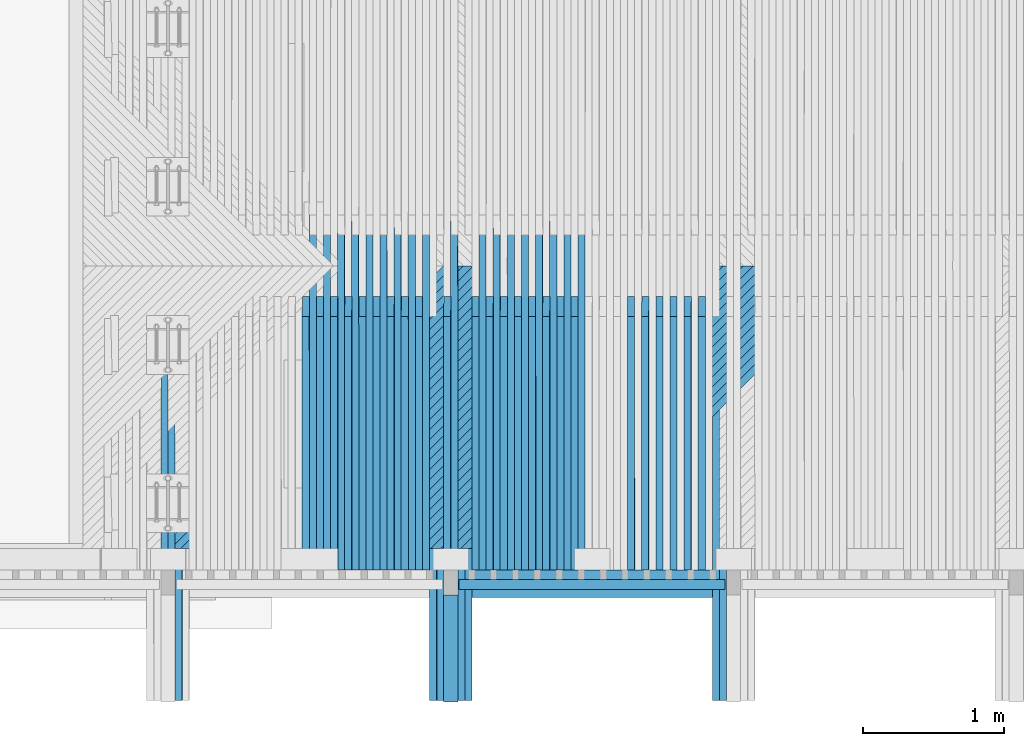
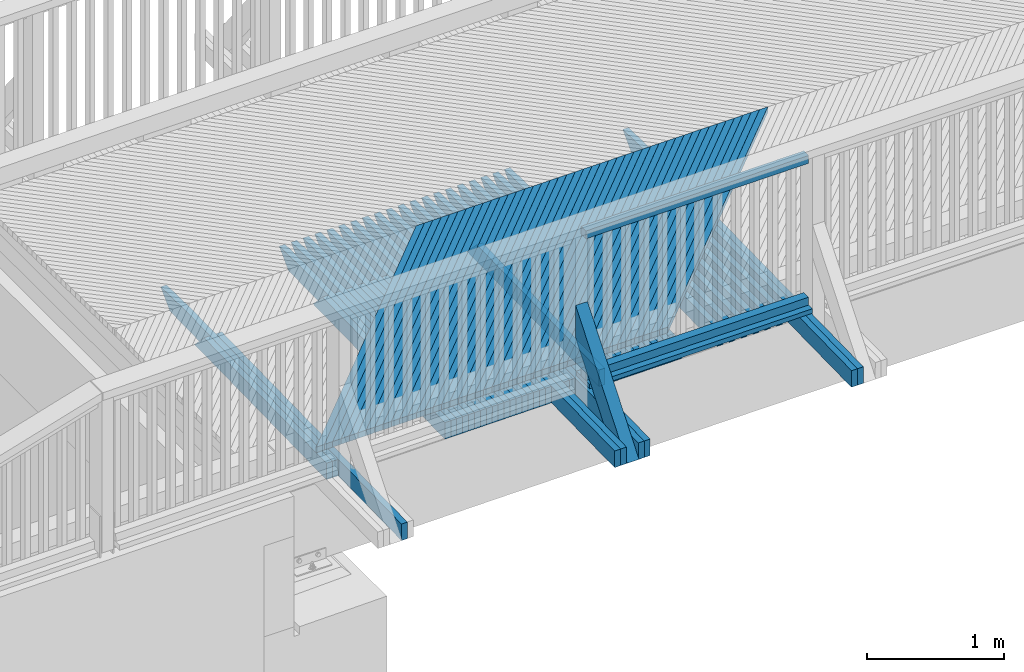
# One storey, part 18 of 53: 96 beams, 1 member.
"""IFC2X3 building model written with IfcOpenShell, lengths in millimetres."""

from ifc_helpers import new_model, si_unit, frame, origin_with_axes, place, context, subcontext, project, spatial, faceted_brep, material, type_object, element, save


model = new_model("IFC2X3")

# Units and contexts
model_context = context("Model", 3, precision=1e-05, world=origin_with_axes())
body_context = subcontext(model_context, "Body", "Model", "MODEL_VIEW")
ifc_project = project(units=[si_unit("LENGTHUNIT", "METRE", prefix="MILLI"), si_unit("AREAUNIT", "SQUARE_METRE"), si_unit("VOLUMEUNIT", "CUBIC_METRE"), si_unit("MASSUNIT", "GRAM", prefix="KILO"), si_unit("TIMEUNIT", "SECOND"), si_unit("PLANEANGLEUNIT", "RADIAN"), si_unit("SOLIDANGLEUNIT", "STERADIAN"), si_unit("THERMODYNAMICTEMPERATUREUNIT", "DEGREE_CELSIUS"), si_unit("LUMINOUSINTENSITYUNIT", "LUMEN")], contexts=[model_context])

# Site, building, storey
site_placement = place(None, origin_with_axes())
site = spatial("IfcSite", under=ifc_project, at=site_placement, Name="Undefined", CompositionType="ELEMENT")
building_placement = place(site_placement, origin_with_axes())
building = spatial("IfcBuilding", under=site, at=building_placement, Name="Undefined", CompositionType="ELEMENT")
storey_placement = place(building_placement, origin_with_axes())
storey = spatial("IfcBuildingStorey", under=building, at=storey_placement, Name="Undefined", CompositionType="ELEMENT", Elevation=0.0)

# Member
ifc_material = material(Name="TIMBER/Timber_Undefined")
member_type = type_object("IfcMemberType", Name="180*100", PredefinedType="NOTDEFINED")
member_placement = place(storey_placement, frame((2000.00641464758, 39351.2316008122, 2924.1196412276), z_axis=(0.0, -0.783926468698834, 0.620853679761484), x_axis=(-4.01699999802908e-06, 0.620853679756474, 0.783926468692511)))
element("IfcMember", 1, at=member_placement, inside=storey, type_object=member_type, material=ifc_material, Name="KAIDEPYLVÄS", ObjectType="180*100", context=body_context, shape_type="Brep", body=[
    faceted_brep([(0.0, 50.0, -89.9999999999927), (0.0, 50.0, 90.0), (1214.99480886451, 50.0000000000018, 90.0000000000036), (987.716194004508, 50.0, -89.9999999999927), (0.0, -49.9999999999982, 90.0000000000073), (1214.99440716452, -49.9999999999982, 90.0000000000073), (-3.63797880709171e-12, -49.9999999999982, -90.0), (987.715792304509, -49.9999999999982, -89.9999999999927)], [[[0, 1, 2, 3]], [[1, 4, 5, 2]], [[4, 6, 7, 5]], [[6, 0, 3, 7]], [[5, 7, 3, 2]], [[6, 4, 1, 0]]]),
])

# Beams
beam_type_1 = type_object("IfcBeamType", Name="70*70", PredefinedType="NOTDEFINED")
for number, where, z_axis, x_axis, name in (
    (2, (2060.3049307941, 40110.0099997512, 3233.55031617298), (0.0, -1.0, 0.0), (0.999961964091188, 0.0, 0.00872183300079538), "BEAM"),
    (3, (2060.3049307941, 40110.0099997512, 4498.55031617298), (0.0, -1.0, 0.0), (0.999961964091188, 0.0, 0.00872183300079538), "BEAM"),
):
    element("IfcBeam", number, at=place(storey_placement, frame(where, z_axis=z_axis, x_axis=x_axis)), inside=storey, type_object=beam_type_1, material=ifc_material, Name=name, ObjectType="70*70", context=body_context, shape_type="Brep", body=[
        faceted_brep([(-3.63797880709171e-12, 35.0000000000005, -35.0), (-3.63797880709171e-12, 35.0000000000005, 35.0), (1880.07227097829, 34.9999999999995, 35.0), (1880.07227097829, 34.9999999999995, -35.0), (-3.63797880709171e-12, -34.9999999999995, 35.0), (1880.07227097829, -35.0000000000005, 35.0), (-3.63797880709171e-12, -34.9999999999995, -35.0), (1880.07227097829, -35.0000000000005, -35.0)], [[[0, 1, 2, 3]], [[1, 4, 5, 2]], [[4, 6, 7, 5]], [[6, 0, 3, 7]], [[5, 7, 3, 2]], [[6, 4, 1, 0]]]),
    ])
beam_type_2 = type_object("IfcBeamType", Name="195*40", PredefinedType="NOTDEFINED")
beam_1_placement = place(storey_placement, frame((2059.92831112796, 40117.5099997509, 3178.55418737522), z_axis=(0.0, -1.0, 0.0), x_axis=(0.999961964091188, 0.0, 0.00872183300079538)))
element("IfcBeam", 4, at=beam_1_placement, inside=storey, type_object=beam_type_2, material=ifc_material, Name="BEAM", ObjectType="195*40", context=body_context, shape_type="Brep", body=[
    faceted_brep([(0.0, 20.0, -97.5), (0.0, 20.0, 97.5), (1880.22135781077, 19.9999999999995, 97.5), (1880.22135781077, 19.9999999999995, -97.5), (3.63797880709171e-12, -20.0, 97.5), (1880.22135781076, -20.0000000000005, 97.5), (3.63797880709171e-12, -20.0, -97.5), (1880.22135781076, -20.0000000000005, -97.5)], [[[0, 1, 2, 3]], [[1, 4, 5, 2]], [[4, 6, 7, 5]], [[6, 0, 3, 7]], [[5, 7, 3, 2]], [[6, 4, 1, 0]]]),
])
beam_type_3 = type_object("IfcBeamType", Name="50*50", PredefinedType="NOTDEFINED")
for number, where, z_axis, x_axis, name in (
    (5, (1982.89840031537, 42364.5001003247, 3206.05577851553), (0.707207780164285, -0.706981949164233, -0.0058033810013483), (-0.706907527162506, -0.706948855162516, -0.0224736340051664), "BEAM"),
    (6, (2053.61914354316, 42364.5001003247, 3206.75839778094), (0.707207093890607, -0.706981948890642, -0.00588644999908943), (-0.706910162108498, -0.706948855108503, -0.0223906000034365), "BEAM"),
    (7, (2124.3399688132, 42364.5001003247, 3207.45271013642), (0.707206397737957, -0.706981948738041, -0.00596951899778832), (-0.706912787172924, -0.706948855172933, -0.0223075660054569), "BEAM"),
    (8, (2195.06087514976, 42364.5001003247, 3208.13871557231), (0.70720569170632, -0.706981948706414, -0.00605258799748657), (-0.706915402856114, -0.706948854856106, -0.0222245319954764), "BEAM"),
    (9, (2265.78186157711, 42364.5001003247, 3208.8164140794), (0.707204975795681, -0.706981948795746, -0.00613565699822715), (-0.706918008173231, -0.706948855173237, -0.0221414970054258), "BEAM"),
    (10, (2336.5029271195, 42364.5001003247, 3209.48580564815), (0.707204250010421, -0.706981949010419, -0.00621872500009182), (-0.706920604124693, -0.706948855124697, -0.0220584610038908), "BEAM"),
    (11, (2407.22407080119, 42364.5001003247, 3210.14689026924), (0.707203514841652, -0.706981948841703, -0.00630179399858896), (-0.706923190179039, -0.706948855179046, -0.0219754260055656), "BEAM"),
    (12, (2477.94529164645, 42364.5001003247, 3210.79966793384), (0.707202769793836, -0.706981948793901, -0.0063848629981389), (-0.706925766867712, -0.706948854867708, -0.0218923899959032), "BEAM"),
    (13, (4882.50574585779, 42364.5001003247, 3228.05141176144), (0.707171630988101, -0.706981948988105, -0.00920913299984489), (-0.707007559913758, -0.706948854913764, -0.0190689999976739), "BEAM"),
    (14, (4811.78248202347, 42364.5001003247, 3227.68107523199), (0.707172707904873, -0.7069819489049, -0.00912606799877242), (-0.707005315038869, -0.706948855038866, -0.0191520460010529), "BEAM"),
    (15, (4741.05926217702, 42364.5001003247, 3227.30243150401), (0.707173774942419, -0.706981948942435, -0.00904300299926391), (-0.707003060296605, -0.706948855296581, -0.0192350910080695), "BEAM"),
    (16, (4670.33608729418, 42364.5001003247, 3226.91548058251), (0.707174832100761, -0.706981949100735, -0.00895993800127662), (-0.707000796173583, -0.70694885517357, -0.019318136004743), "BEAM"),
    (17, (4599.61295835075, 42364.5001003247, 3226.52022247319), (0.707175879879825, -0.706981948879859, -0.00887687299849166), (-0.706998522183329, -0.706948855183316, -0.0194011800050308), "BEAM"),
    (18, (4528.88987632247, 42364.5001003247, 3226.11665718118), (0.707176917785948, -0.706981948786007, -0.00879380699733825), (-0.706996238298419, -0.706948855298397, -0.0194842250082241), "BEAM"),
    (19, (4458.16684218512, 42364.5001003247, 3225.70478471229), (0.707177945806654, -0.706981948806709, -0.00871074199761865), (-0.706993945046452, -0.706948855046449, -0.0195672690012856), "BEAM"),
    (20, (4387.44385691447, 42364.5001003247, 3225.284605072), (0.707178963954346, -0.70698194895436, -0.00862767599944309), (-0.706991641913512, -0.706948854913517, -0.0196503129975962), "BEAM"),
    (21, (4316.72092148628, 42364.5001003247, 3224.85611826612), (0.707179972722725, -0.706981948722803, -0.00854460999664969), (-0.706989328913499, -0.706948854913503, -0.0197333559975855), "BEAM"),
    (22, (4245.99803687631, 42364.5001003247, 3224.41932430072), (0.707180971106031, -0.706981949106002, -0.0084615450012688), (-0.706987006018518, -0.706948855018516, -0.019816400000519), "BEAM"),
    (23, (4175.27520406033, 42364.5001003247, 3223.97422318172), (0.707181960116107, -0.706981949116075, -0.00837847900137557), (-0.706984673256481, -0.706948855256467, -0.0198994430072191), "BEAM"),
    (24, (4104.5524240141, 42364.5001003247, 3223.52081491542), (0.707182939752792, -0.706981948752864, -0.00829541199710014), (-0.706982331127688, -0.706948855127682, -0.019982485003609), "BEAM"),
    (25, (4033.82969771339, 42364.5001003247, 3223.05909950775), (0.707183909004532, -0.706981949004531, -0.00821234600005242), (-0.706979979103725, -0.70694885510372, -0.0200655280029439), "BEAM"),
    (26, (3963.10702613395, 42364.5001003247, 3222.58907696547), (0.707184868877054, -0.70698194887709, -0.00812927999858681), (-0.706977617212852, -0.706948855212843, -0.0201485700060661), "BEAM"),
    (27, (3892.38441025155, 42364.5001003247, 3222.11074729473), (0.707185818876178, -0.706981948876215, -0.00804621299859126), (-0.706975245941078, -0.706948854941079, -0.0202316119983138), "BEAM"),
    (28, (3821.66185104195, 42364.5001003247, 3221.62411050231), (0.707186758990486, -0.706981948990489, -0.0079631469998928), (-0.706972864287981, -0.70694885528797, -0.0203146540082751), "BEAM"),
    (29, (3750.93934948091, 42364.5001003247, 3221.12916659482), (0.707187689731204, -0.706981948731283, -0.00788007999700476), (-0.706970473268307, -0.706948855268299, -0.0203976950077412), "BEAM"),
    (30, (3680.21690654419, 42364.5001003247, 3220.62591557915), (0.707188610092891, -0.706981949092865, -0.00779701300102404), (-0.70696807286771, -0.706948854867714, -0.0204807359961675), "BEAM"),
    (31, (3609.49452320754, 42364.5001003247, 3220.11435746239), (0.707189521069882, -0.706981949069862, -0.00771394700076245), (-0.70696566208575, -0.706948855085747, -0.0205637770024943), "BEAM"),
    (32, (3538.77220044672, 42364.5001003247, 3219.59449225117), (0.707190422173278, -0.706981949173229, -0.00763088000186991), (-0.706963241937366, -0.706948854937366, -0.0206468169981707), "BEAM"),
    (33, (3468.04993923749, 42364.5001003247, 3219.06631995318), (0.707191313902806, -0.706981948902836, -0.00754781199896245), (-0.706960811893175, -0.706948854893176, -0.0207298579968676), "BEAM"),
    (34, (3397.3277405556, 42364.5001003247, 3218.52984057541), (0.707192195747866, -0.706981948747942, -0.00746474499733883), (-0.70695837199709, -0.706948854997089, -0.0208128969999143), "BEAM"),
    (35, (3326.60560537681, 42364.5001003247, 3217.98505412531), (0.707193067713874, -0.70698194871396, -0.00738167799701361), (-0.706955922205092, -0.70694885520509, -0.020895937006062), "BEAM"),
    (36, (3255.88353467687, 42364.5001003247, 3217.43196061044), (0.707193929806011, -0.70698194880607, -0.00729860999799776), (-0.706953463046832, -0.706948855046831, -0.0209789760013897), "BEAM"),
    (37, (3185.16152943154, 42364.5001003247, 3216.87056003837), (0.707194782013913, -0.70698194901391, -0.00721554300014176), (-0.706950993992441, -0.706948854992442, -0.0210620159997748), "BEAM"),
    (38, (3114.43959061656, 42364.5001003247, 3216.30085241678), (0.707195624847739, -0.706981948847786, -0.00713247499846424), (-0.706948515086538, -0.706948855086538, -0.0211450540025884), "BEAM"),
    (39, (3043.7177192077, 42364.5001003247, 3215.72283775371), (0.707196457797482, -0.706981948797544, -0.00704940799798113), (-0.706946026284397, -0.706948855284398, -0.0212280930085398), "BEAM"),
    (40, (2972.99591618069, 42364.5001003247, 3215.13651605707), (0.707197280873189, -0.706981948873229, -0.00696633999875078), (-0.706943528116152, -0.706948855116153, -0.0213111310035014), "BEAM"),
    (41, (2902.27418251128, 42364.5001003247, 3214.5418873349), (0.707198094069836, -0.706981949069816, -0.00688327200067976), (-0.706941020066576, -0.706948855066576, -0.0213941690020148), "BEAM"),
    (42, (2831.55251917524, 42364.5001003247, 3213.93895159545), (0.70719889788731, -0.706981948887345, -0.00680020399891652), (-0.706938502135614, -0.706948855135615, -0.02147720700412), "BEAM"),
    (43, (2760.83092714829, 42364.5001003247, 3213.32770884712), (0.707199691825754, -0.706981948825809, -0.00671713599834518), (-0.706935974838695, -0.706948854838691, -0.0215602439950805), "BEAM"),
    (44, (2690.1094074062, 42364.5001003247, 3212.70815909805), (0.707200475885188, -0.706981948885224, -0.00663406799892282), (-0.70693343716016, -0.706948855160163, -0.0216432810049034), "BEAM"),
    (45, (2619.38796092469, 42364.5001003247, 3212.08030235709), (0.70720125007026, -0.706981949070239, -0.00655099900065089), (-0.706930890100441, -0.706948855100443, -0.0217263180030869), "BEAM"),
    (46, (2548.66658867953, 42364.5001003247, 3211.44413863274), (0.707202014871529, -0.70698194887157, -0.00646793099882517), (-0.706928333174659, -0.706948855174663, -0.0218093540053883), "BEAM"),
):
    element("IfcBeam", number, at=place(storey_placement, frame(where, z_axis=z_axis, x_axis=x_axis)), inside=storey, type_object=beam_type_3, material=ifc_material, Name=name, ObjectType="50*50", context=body_context, shape_type="Brep", body=[
        faceted_brep([(24.8942457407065, 25.0, -25.0), (-25.0086637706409, 24.9999999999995, 24.9999999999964), (2804.34067830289, 25.0, 25.0000000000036), (2854.34301907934, 24.9999999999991, -25.0000000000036), (-26.4222658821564, -25.0000000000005, 25.0000000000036), (2802.92643296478, -25.0, 25.0), (23.4806436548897, -25.0, -25.0), (2852.92877373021, -25.0000000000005, -25.0000000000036)], [[[0, 1, 2, 3]], [[1, 4, 5, 2]], [[4, 6, 7, 5]], [[6, 0, 3, 7]], [[5, 7, 3, 2]], [[6, 4, 1, 0]]]),
    ])
beam_type_4 = type_object("IfcBeamType", Name="150*50", PredefinedType="NOTDEFINED")
beam_2_placement = place(storey_placement, frame((2125.78256806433, 39292.7893476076, 3046.00594388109), z_axis=(-0.00975672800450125, -0.019996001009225, 0.999752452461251), x_axis=(-0.000196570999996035, 0.999800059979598, 0.0199950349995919)))
element("IfcBeam", 47, at=beam_2_placement, inside=storey, type_object=beam_type_4, material=ifc_material, Name="BEAM", ObjectType="150*50", context=body_context, shape_type="Brep", body=[
    faceted_brep([(1.28420651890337e-08, -24.9999999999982, -74.9999999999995), (-1.28347892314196e-08, -24.9999999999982, 75.0), (-1.28347892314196e-08, 25.0, 75.0), (1.28420651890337e-08, 25.0000000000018, -75.0), (3298.90497884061, 24.9999999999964, -74.9999999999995), (3298.90492234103, -25.0, -74.9999999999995), (3434.49245887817, -25.0, 60.5875365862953), (3074.32503029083, -25.0, 75.0000000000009), (3074.32503673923, 25.0000000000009, 75.0), (3434.49251531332, 24.9999999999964, 60.5875365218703)], [[[0, 1, 2, 3]], [[0, 3, 4, 5]], [[1, 0, 5, 6, 7]], [[2, 1, 7, 8]], [[4, 3, 2, 8, 9]], [[5, 4, 9, 6]], [[8, 7, 6, 9]]]),
])
for number, where, z_axis, x_axis, name in (
    (48, (2075.76716394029, 39292.7893322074, 3045.51783505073), (-0.00992284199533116, -0.0199960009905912, 0.999750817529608), (-0.000199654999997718, 0.999800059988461, 0.0199950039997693), "BEAM"),
    (49, (3875.49568343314, 39292.7893168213, 3060.54316282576), (-0.00693292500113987, -0.0199960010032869, 0.999776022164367), (-0.000137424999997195, 0.999800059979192, 0.0199955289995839), "BEAM"),
):
    element("IfcBeam", number, at=place(storey_placement, frame(where, z_axis=z_axis, x_axis=x_axis)), inside=storey, type_object=beam_type_4, material=ifc_material, Name=name, ObjectType="150*50", context=body_context, shape_type="Brep", body=[
        faceted_brep([(1.28420651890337e-08, -24.9999999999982, -74.9999999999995), (-1.28347892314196e-08, -24.9999999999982, 75.0), (-1.28347892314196e-08, 25.0, 75.0), (1.28420651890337e-08, 25.0000000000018, -75.0), (2852.32648139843, -25.0000000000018, -75.0000000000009), (2713.86938248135, -25.0000000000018, 74.9999999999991), (2713.86933800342, 25.0000000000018, 75.0), (2852.32643692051, 24.9999999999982, -75.0000000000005)], [[[0, 1, 2, 3]], [[1, 0, 4, 5]], [[2, 1, 5, 6]], [[3, 2, 6, 7]], [[0, 3, 7, 4]], [[4, 7, 6, 5]]]),
    ])
beam_3_placement = place(storey_placement, frame((3925.51681778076, 39292.7893321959, 3060.88172358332), z_axis=(-0.00676680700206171, -0.019996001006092, 0.999777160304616), x_axis=(-0.000135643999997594, 0.999800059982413, 0.0199955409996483)))
element("IfcBeam", 50, at=beam_3_placement, inside=storey, type_object=beam_type_4, material=ifc_material, Name="BEAM", ObjectType="150*50", context=body_context, shape_type="Brep", body=[
    faceted_brep([(1.28420651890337e-08, -24.9999999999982, -74.9999999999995), (-1.28347892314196e-08, -24.9999999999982, 75.0), (-1.28347892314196e-08, 25.0, 75.0), (1.28420651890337e-08, 25.0000000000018, -75.0), (3298.90492234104, 25.0, -75.0), (3298.90497884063, -24.9999999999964, -75.0), (3434.49251531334, -24.9999999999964, 60.587536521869), (3074.32503029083, -25.0, 75.0000000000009), (3074.32497546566, 25.0000000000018, 75.0), (3434.49245887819, 25.0, 60.5875365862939)], [[[0, 1, 2, 3]], [[0, 3, 4, 5]], [[1, 0, 5, 6, 7]], [[2, 1, 7, 8]], [[4, 3, 2, 8, 9]], [[5, 4, 9, 6]], [[6, 9, 8, 7]]]),
])
beam_4_placement = place(storey_placement, frame((1875.7348697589, 39292.7893168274, 3043.51582785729), z_axis=(-0.010255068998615, -0.0199960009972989, 0.999747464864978), x_axis=(-0.000203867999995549, 0.999800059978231, 0.0199949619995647)))
element("IfcBeam", 51, at=beam_4_placement, inside=storey, type_object=beam_type_4, material=ifc_material, Name="BEAM", ObjectType="150*50", context=body_context, shape_type="Brep", body=[
    faceted_brep([(1.28420651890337e-08, -24.9999999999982, -74.9999999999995), (-1.28347892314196e-08, -24.9999999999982, 75.0), (-1.28347892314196e-08, 25.0, 75.0), (1.28420651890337e-08, 25.0000000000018, -75.0), (2852.32648139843, -25.0000000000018, -75.0000000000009), (2713.86938248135, -25.0000000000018, 74.9999999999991), (2713.86933800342, 25.0000000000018, 75.0), (2852.32643692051, 24.9999999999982, -75.0000000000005)], [[[0, 1, 2, 3]], [[1, 0, 4, 5]], [[2, 1, 5, 6]], [[3, 2, 6, 7]], [[0, 3, 7, 4]], [[4, 7, 6, 5]]]),
])
beam_5_placement = place(storey_placement, frame((1925.75460293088, 39292.789332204, 3044.02060326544), z_axis=(-0.0100889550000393, -0.0199960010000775, 0.9997491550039), x_axis=(-0.000202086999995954, 0.999800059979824, 0.0199949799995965)))
element("IfcBeam", 52, at=beam_5_placement, inside=storey, type_object=beam_type_4, material=ifc_material, Name="BEAM", ObjectType="150*50", context=body_context, shape_type="Brep", body=[
    faceted_brep([(1.28420651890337e-08, -24.9999999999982, -74.9999999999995), (-1.28347892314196e-08, -24.9999999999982, 75.0), (-1.28347892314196e-08, 25.0, 75.0), (1.28420651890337e-08, 25.0000000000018, -75.0), (3298.90492234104, 25.0, -75.0), (3298.90497884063, -24.9999999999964, -75.0), (3434.49251531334, -24.9999999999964, 60.587536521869), (3074.32503029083, -25.0, 75.0000000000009), (3074.32497546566, 25.0000000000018, 75.0), (3434.49245887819, 25.0, 60.5875365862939)], [[[0, 1, 2, 3]], [[0, 3, 4, 5]], [[1, 0, 5, 6, 7]], [[2, 1, 7, 8]], [[4, 3, 2, 8, 9]], [[5, 4, 9, 6]], [[6, 9, 8, 7]]]),
])
for number, where, z_axis, x_axis, name in (
    (53, (3775.96432395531, 40216.5046076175, 3078.32495570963), (-0.007098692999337, -0.0199960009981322, 0.999774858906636), (-0.00014197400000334, 0.999800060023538, 0.0199954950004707), "BEAM"),
    (54, (3675.94681213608, 40216.5046076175, 3077.61480038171), (-0.00726481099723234, -0.0199960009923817, 0.999773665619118), (-0.000145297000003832, 0.999800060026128, 0.0199954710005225), "BEAM"),
    (55, (3575.92941969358, 40216.5046076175, 3076.88802661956), (-0.00743092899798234, -0.0199960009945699, 0.999772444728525), (-0.000148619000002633, 0.999800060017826, 0.0199954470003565), "BEAM"),
    (56, (3475.91214938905, 40216.5046076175, 3076.1446344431), (-0.00759704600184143, -0.0199960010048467, 0.99977119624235), (-0.000151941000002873, 0.999800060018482, 0.0199954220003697), "BEAM"),
    (57, (3375.89500398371, 40216.5046076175, 3075.38462387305), (-0.00776316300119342, -0.0199960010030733, 0.999769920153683), (-0.000155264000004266, 0.999800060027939, 0.0199953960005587), "BEAM"),
    (58, (3275.87798623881, 40216.5046076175, 3074.60799493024), (-0.0079292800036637, -0.019996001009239, 0.99976861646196), (-0.000158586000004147, 0.999800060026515, 0.0199953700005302), "BEAM"),
    (59, (2875.81124708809, 40216.5046076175, 3071.33529586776), (-0.00859374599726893, -0.0199960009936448, 0.999763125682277), (-0.000171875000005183, 0.999800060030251, 0.0199952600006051), "BEAM"),
    (60, (2775.79490906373, 40216.5046076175, 3070.47557539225), (-0.00875986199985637, -0.0199960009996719, 0.999761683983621), (-0.000175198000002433, 0.999800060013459, 0.0199952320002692), "BEAM"),
    (61, (2675.77871526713, 40216.5046076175, 3069.5992366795), (-0.00892597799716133, -0.0199960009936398, 0.999760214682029), (-0.000178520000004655, 0.999800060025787, 0.0199952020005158), "BEAM"),
    (62, (2575.76266845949, 40216.5046076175, 3068.70627975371), (-0.00909209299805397, -0.0199960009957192, 0.999758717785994), (-0.000181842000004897, 0.999800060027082, 0.0199951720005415), "BEAM"),
    (63, (2475.74677140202, 40216.5046076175, 3067.79670463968), (-0.00925820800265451, -0.0199960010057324, 0.999757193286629), (-0.000185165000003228, 0.999800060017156, 0.0199951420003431), "BEAM"),
    (64, (2375.73102685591, 40216.5046076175, 3066.87051136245), (-0.00942432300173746, -0.0199960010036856, 0.999755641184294), (-0.000188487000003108, 0.999800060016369, 0.0199951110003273), "BEAM"),
    (65, (2275.71543758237, 40216.5046076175, 3065.9276999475), (-0.00959043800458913, -0.0199960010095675, 0.999754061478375), (-0.00019180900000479, 0.999800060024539, 0.0199950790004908), "BEAM"),
    (66, (2175.70000634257, 40216.5046076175, 3064.96827042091), (-0.00975672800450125, -0.019996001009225, 0.999752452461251), (-0.000195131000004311, 0.999800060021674, 0.0199950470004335), "BEAM"),
):
    element("IfcBeam", number, at=place(storey_placement, frame(where, z_axis=z_axis, x_axis=x_axis)), inside=storey, type_object=beam_type_4, material=ifc_material, Name=name, ObjectType="150*50", context=body_context, shape_type="Brep", body=[
        faceted_brep([(1.28420651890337e-08, -24.9999999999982, -74.9999999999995), (-1.28347892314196e-08, -24.9999999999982, 75.0), (-1.28347892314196e-08, 25.0, 75.0), (1.28420651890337e-08, 25.0000000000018, -75.0), (1928.42646353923, -25.0000000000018, -75.0), (1789.96936433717, -25.0000000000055, 74.9999999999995), (1789.96936408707, 24.9999999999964, 75.0000000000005), (1928.42646328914, 24.9999999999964, -74.9999999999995)], [[[0, 1, 2, 3]], [[1, 0, 4, 5]], [[2, 1, 5, 6]], [[3, 2, 6, 7]], [[0, 3, 7, 4]], [[7, 6, 5, 4]]]),
    ])
for number, where, z_axis, x_axis, name in (
    (67, (2925.82950294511, 40216.5046076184, 3071.75693223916), (-0.00842762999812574, -0.0199960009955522, 0.999764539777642), (-0.0001685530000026, 0.999800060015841, 0.0199952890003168), "BEAM"),
    (68, (2825.81309417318, 40216.5046076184, 3070.90552255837), (-0.00859374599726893, -0.0199960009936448, 0.999763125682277), (-0.000171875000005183, 0.999800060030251, 0.0199952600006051), "BEAM"),
    (69, (2725.79682824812, 40216.5046076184, 3070.03749462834), (-0.00875986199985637, -0.0199960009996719, 0.999761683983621), (-0.000175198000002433, 0.999800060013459, 0.0199952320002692), "BEAM"),
    (70, (2625.78070793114, 40216.5046076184, 3069.1528484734), (-0.00892597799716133, -0.0199960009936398, 0.999760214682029), (-0.000178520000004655, 0.999800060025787, 0.0199952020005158), "BEAM"),
    (71, (2525.76473598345, 40216.5046076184, 3068.25158411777), (-0.00909209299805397, -0.0199960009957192, 0.999758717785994), (-0.000181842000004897, 0.999800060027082, 0.0199951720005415), "BEAM"),
    (72, (2425.74891516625, 40216.5046076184, 3067.33370158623), (-0.00925820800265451, -0.0199960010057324, 0.999757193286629), (-0.000185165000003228, 0.999800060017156, 0.0199951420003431), "BEAM"),
    (73, (2325.73324824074, 40216.5046076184, 3066.39920090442), (-0.00942432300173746, -0.0199960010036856, 0.999755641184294), (-0.000188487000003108, 0.999800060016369, 0.0199951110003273), "BEAM"),
    (74, (2225.7177379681, 40216.5046076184, 3065.44808209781), (-0.00959043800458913, -0.0199960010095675, 0.999754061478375), (-0.00019180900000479, 0.999800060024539, 0.0199950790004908), "BEAM"),
):
    element("IfcBeam", number, at=place(storey_placement, frame(where, z_axis=z_axis, x_axis=x_axis)), inside=storey, type_object=beam_type_4, material=ifc_material, Name=name, ObjectType="150*50", context=body_context, shape_type="Brep", body=[
        faceted_brep([(1.28420651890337e-08, -24.9999999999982, -74.9999999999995), (-1.28347892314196e-08, -24.9999999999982, 75.0), (-1.28347892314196e-08, 25.0, 75.0), (1.28420651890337e-08, 25.0000000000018, -75.0), (2375.00494422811, 25.0000000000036, -75.0), (2375.0049444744, -24.9999999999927, -74.9999999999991), (2510.5924871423, -24.9999999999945, 60.5875430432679), (2150.42514405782, -24.9999999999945, 75.0), (2150.42515052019, 25.0000000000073, 75.0), (2510.59248715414, 25.0000000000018, 60.5875433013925)], [[[0, 1, 2, 3]], [[0, 3, 4, 5]], [[1, 0, 5, 6, 7]], [[2, 1, 7, 8]], [[4, 3, 2, 8, 9]], [[5, 4, 9, 6]], [[6, 9, 8, 7]]]),
    ])
for number, where, z_axis, x_axis, name in (
    (75, (1975.66962900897, 40216.5046076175, 3062.99955713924), (-0.0100889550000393, -0.0199960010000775, 0.9997491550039), (-0.000202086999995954, 0.999800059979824, 0.0199949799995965), "BEAM"),
    (76, (1775.63991694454, 40216.5046076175, 3060.964371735), (-0.0104210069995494, -0.0199960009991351, 0.999745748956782), (-0.000208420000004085, 0.999800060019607, 0.0199949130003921), "BEAM"),
    (77, (1675.6253172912, 40216.5046076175, 3059.92185205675), (-0.0105871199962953, -0.0199960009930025, 0.99974400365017), (-0.000211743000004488, 0.999800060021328, 0.0199948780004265), "BEAM"),
    (78, (1575.61089223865, 40216.5046076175, 3058.86271443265), (-0.0107532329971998, -0.0199960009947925, 0.999742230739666), (-0.00021506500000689, 0.999800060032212, 0.0199948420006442), "BEAM"),
    (79, (1475.59664454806, 40216.5046076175, 3057.78695889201), (-0.010919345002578, -0.0199960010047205, 0.999740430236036), (-0.000218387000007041, 0.999800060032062, 0.0199948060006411), "BEAM"),
    (80, (1375.58257698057, 40216.5046076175, 3056.69458546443), (-0.011085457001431, -0.019996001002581, 0.999738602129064), (-0.00022170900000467, 0.999800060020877, 0.0199947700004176), "BEAM"),
    (81, (1275.56869229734, 40216.5046076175, 3055.58559418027), (-0.0112515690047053, -0.0199960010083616, 0.999736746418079), (-0.000225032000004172, 0.999800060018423, 0.0199947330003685), "BEAM"),
    (82, (1175.55499325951, 40216.5046076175, 3054.45998506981), (-0.0114176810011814, -0.0199960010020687, 0.999734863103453), (-0.000228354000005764, 0.999800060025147, 0.0199946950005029), "BEAM"),
    (83, (1075.54148262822, 40216.5046076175, 3053.31775816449), (-0.0115837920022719, -0.0199960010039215, 0.999732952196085), (-0.000231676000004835, 0.999800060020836, 0.0199946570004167), "BEAM"),
    (84, (975.528163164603, 40216.5046076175, 3052.1589134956), (-0.011749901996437, -0.019996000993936, 0.999731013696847), (-0.000234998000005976, 0.99980006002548, 0.0199946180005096), "BEAM"),
):
    element("IfcBeam", number, at=place(storey_placement, frame(where, z_axis=z_axis, x_axis=x_axis)), inside=storey, type_object=beam_type_4, material=ifc_material, Name=name, ObjectType="150*50", context=body_context, shape_type="Brep", body=[
        faceted_brep([(1.28420651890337e-08, -24.9999999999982, -74.9999999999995), (-1.28347892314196e-08, -24.9999999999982, 75.0), (-1.28347892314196e-08, 25.0, 75.0), (1.28420651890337e-08, 25.0000000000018, -75.0), (1928.42646353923, -25.0000000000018, -75.0), (1789.96936433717, -25.0000000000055, 74.9999999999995), (1789.96936408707, 24.9999999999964, 75.0000000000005), (1928.42646328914, 24.9999999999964, -74.9999999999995)], [[[0, 1, 2, 3]], [[1, 0, 4, 5]], [[2, 1, 5, 6]], [[3, 2, 6, 7]], [[0, 3, 7, 4]], [[7, 6, 5, 4]]]),
    ])
for number, where, z_axis, x_axis, name in (
    (85, (2025.68719842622, 40216.5046076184, 3063.49599021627), (-0.00992284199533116, -0.0199960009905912, 0.999750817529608), (-0.000198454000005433, 0.999800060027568, 0.0199950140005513), "BEAM"),
    (86, (1825.65731863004, 40216.5046076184, 3061.47742615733), (-0.010255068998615, -0.0199960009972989, 0.999747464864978), (-0.000205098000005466, 0.999800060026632, 0.0199949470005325), "BEAM"),
    (87, (1725.64263303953, 40216.5046076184, 3060.44321713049), (-0.0104210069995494, -0.0199960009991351, 0.999745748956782), (-0.000208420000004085, 0.999800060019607, 0.0199949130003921), "BEAM"),
    (88, (1625.62812066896, 40216.5046076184, 3059.39239014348), (-0.0105871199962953, -0.0199960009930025, 0.99974400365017), (-0.000211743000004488, 0.999800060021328, 0.0199948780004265), "BEAM"),
    (89, (1525.61378427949, 40216.5046076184, 3058.32494522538), (-0.0107532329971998, -0.0199960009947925, 0.999742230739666), (-0.00021506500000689, 0.999800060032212, 0.0199948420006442), "BEAM"),
    (90, (1425.59962663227, 40216.5046076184, 3057.24088240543), (-0.010919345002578, -0.0199960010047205, 0.999740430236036), (-0.000218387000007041, 0.999800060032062, 0.0199948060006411), "BEAM"),
    (91, (1325.58565048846, 40216.5046076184, 3056.14020171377), (-0.011085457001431, -0.019996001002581, 0.999738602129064), (-0.00022170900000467, 0.999800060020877, 0.0199947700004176), "BEAM"),
    (92, (1225.57185860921, 40216.5046076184, 3055.02290318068), (-0.0112515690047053, -0.0199960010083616, 0.999736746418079), (-0.000225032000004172, 0.999800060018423, 0.0199947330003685), "BEAM"),
    (93, (1125.55825375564, 40216.5046076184, 3053.888986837), (-0.0114176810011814, -0.0199960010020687, 0.999734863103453), (-0.000228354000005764, 0.999800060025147, 0.0199946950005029), "BEAM"),
    (94, (1025.5448386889, 40216.5046076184, 3052.73845271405), (-0.0115837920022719, -0.0199960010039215, 0.999732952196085), (-0.000231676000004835, 0.999800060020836, 0.0199946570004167), "BEAM"),
):
    element("IfcBeam", number, at=place(storey_placement, frame(where, z_axis=z_axis, x_axis=x_axis)), inside=storey, type_object=beam_type_4, material=ifc_material, Name=name, ObjectType="150*50", context=body_context, shape_type="Brep", body=[
        faceted_brep([(1.28420651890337e-08, -24.9999999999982, -74.9999999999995), (-1.28347892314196e-08, -24.9999999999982, 75.0), (-1.28347892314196e-08, 25.0, 75.0), (1.28420651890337e-08, 25.0000000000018, -75.0), (2375.00494422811, 25.0000000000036, -75.0), (2375.0049444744, -24.9999999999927, -74.9999999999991), (2510.5924871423, -24.9999999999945, 60.5875430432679), (2150.42514405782, -24.9999999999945, 75.0), (2150.42515052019, 25.0000000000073, 75.0), (2510.59248715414, 25.0000000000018, 60.5875433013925)], [[[0, 1, 2, 3]], [[0, 3, 4, 5]], [[1, 0, 5, 6, 7]], [[2, 1, 7, 8]], [[4, 3, 2, 8, 9]], [[5, 4, 9, 6]], [[6, 9, 8, 7]]]),
    ])
beam_6_placement = place(storey_placement, frame((-24.5939098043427, 40216.5046076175, 3039.65649707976), z_axis=(-0.0134109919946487, -0.0199960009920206, 0.999710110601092), x_axis=(-0.00026822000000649, 0.999800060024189, 0.0199942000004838)))
element("IfcBeam", 95, at=beam_6_placement, inside=storey, type_object=beam_type_4, material=ifc_material, Name="BEAM", ObjectType="150*50", context=body_context, shape_type="Brep", body=[
    faceted_brep([(1.28420651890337e-08, -24.9999999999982, -74.9999999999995), (-1.28347892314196e-08, -24.9999999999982, 75.0), (-1.28347892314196e-08, 25.0, 75.0), (1.28420651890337e-08, 25.0000000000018, -75.0), (1928.42646353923, -25.0000000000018, -75.0), (1789.96936433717, -25.0000000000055, 74.9999999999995), (1789.96936408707, 24.9999999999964, 75.0000000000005), (1928.42646328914, 24.9999999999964, -74.9999999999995)], [[[0, 1, 2, 3]], [[1, 0, 4, 5]], [[2, 1, 5, 6]], [[3, 2, 6, 7]], [[0, 3, 7, 4]], [[7, 6, 5, 4]]]),
])
beam_7_placement = place(storey_placement, frame((75.6651546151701, 39292.7893322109, 3022.50887484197), z_axis=(-0.0132448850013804, -0.0199960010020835, 0.99971232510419), x_axis=(-0.000265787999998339, 0.999800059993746, 0.0199942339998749)))
element("IfcBeam", 96, at=beam_7_placement, inside=storey, type_object=beam_type_4, material=ifc_material, Name="BEAM", ObjectType="150*50", context=body_context, shape_type="Brep", body=[
    faceted_brep([(1.28420651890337e-08, -24.9999999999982, -74.9999999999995), (-1.28347892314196e-08, -24.9999999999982, 75.0), (-1.28347892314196e-08, 25.0, 75.0), (1.28420651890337e-08, 25.0000000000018, -75.0), (2852.32648139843, -25.0000000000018, -75.0000000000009), (2713.86938248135, -25.0000000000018, 74.9999999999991), (2713.86933800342, 25.0000000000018, 75.0), (2852.32643692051, 24.9999999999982, -75.0000000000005)], [[[0, 1, 2, 3]], [[1, 0, 4, 5]], [[2, 1, 5, 6]], [[3, 2, 6, 7]], [[0, 3, 7, 4]], [[4, 7, 6, 5]]]),
])
beam_8_placement = place(storey_placement, frame((25.4217337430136, 40216.5046076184, 3040.31914083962), z_axis=(-0.0132448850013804, -0.0199960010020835, 0.99971232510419), x_axis=(-0.000264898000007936, 0.999800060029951, 0.0199942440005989)))
element("IfcBeam", 97, at=beam_8_placement, inside=storey, type_object=beam_type_4, material=ifc_material, Name="BEAM", ObjectType="150*50", context=body_context, shape_type="Brep", body=[
    faceted_brep([(1.28420651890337e-08, -24.9999999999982, -74.9999999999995), (-1.28347892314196e-08, -24.9999999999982, 75.0), (-1.28347892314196e-08, 25.0, 75.0), (1.28420651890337e-08, 25.0000000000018, -75.0), (2375.00494422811, 25.0000000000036, -75.0), (2375.0049444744, -24.9999999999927, -74.9999999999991), (2510.5924871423, -24.9999999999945, 60.5875430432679), (2150.42514405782, -24.9999999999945, 75.0), (2150.42515052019, 25.0000000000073, 75.0), (2510.59248715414, 25.0000000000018, 60.5875433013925)], [[[0, 1, 2, 3]], [[0, 3, 4, 5]], [[1, 0, 5, 6, 7]], [[2, 1, 7, 8]], [[4, 3, 2, 8, 9]], [[5, 4, 9, 6]], [[6, 9, 8, 7]]]),
])

save(model, "model.ifc")
